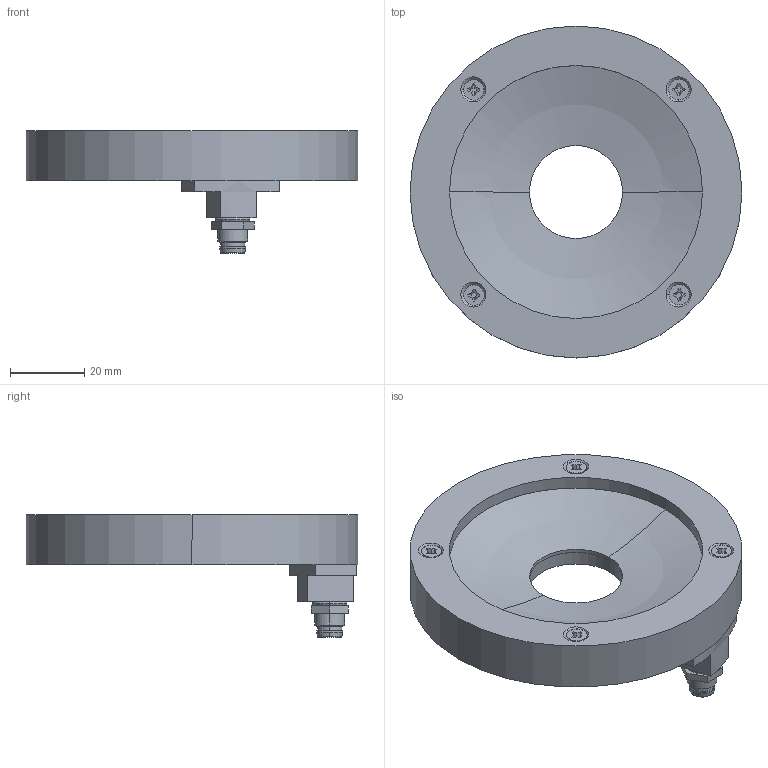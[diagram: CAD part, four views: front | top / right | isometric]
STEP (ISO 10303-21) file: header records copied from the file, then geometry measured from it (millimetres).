
FILE_DESCRIPTION(('STEP AP214'),'1');
FILE_NAME('Arena-70 Kundenmodell 4P.stp','2020-03-11T08:38:46',(' '),(' '),'Spatial InterOp 3D',' ',' ');
FILE_SCHEMA(('AUTOMOTIVE_DESIGN { 1 0 10303 214 1 1 1 1 }'));
Length unit declared in the file: metre
Products named in the file (1): Volumenkörper
Bounding box: 89.2 x 89.2 x 33.05 mm (x, y, z)
Volume: 43868.8 mm3; surface area: 29222.4 mm2
Topology: 1 solids, 1 shells, 474 faces, 1196 edges, 762 vertices
Faces by surface type: cylinder 198, plane 192, cone 54, torus 20, sphere 10
Entity records: 17832 total; most frequent: CARTESIAN_POINT 3719, DIRECTION 2597, ORIENTED_EDGE 2360, EDGE_CURVE 1180, AXIS2_PLACEMENT_3D 1008, VERTEX_POINT 762, LINE 581, VECTOR 581
